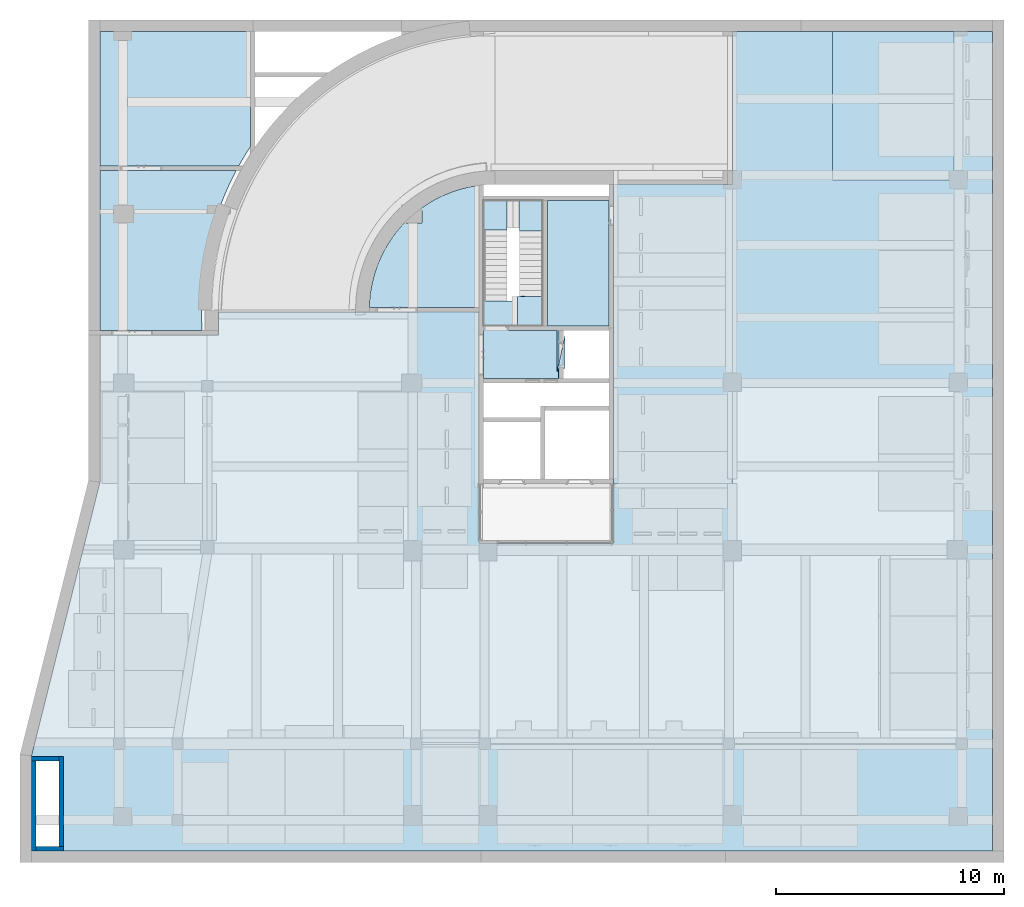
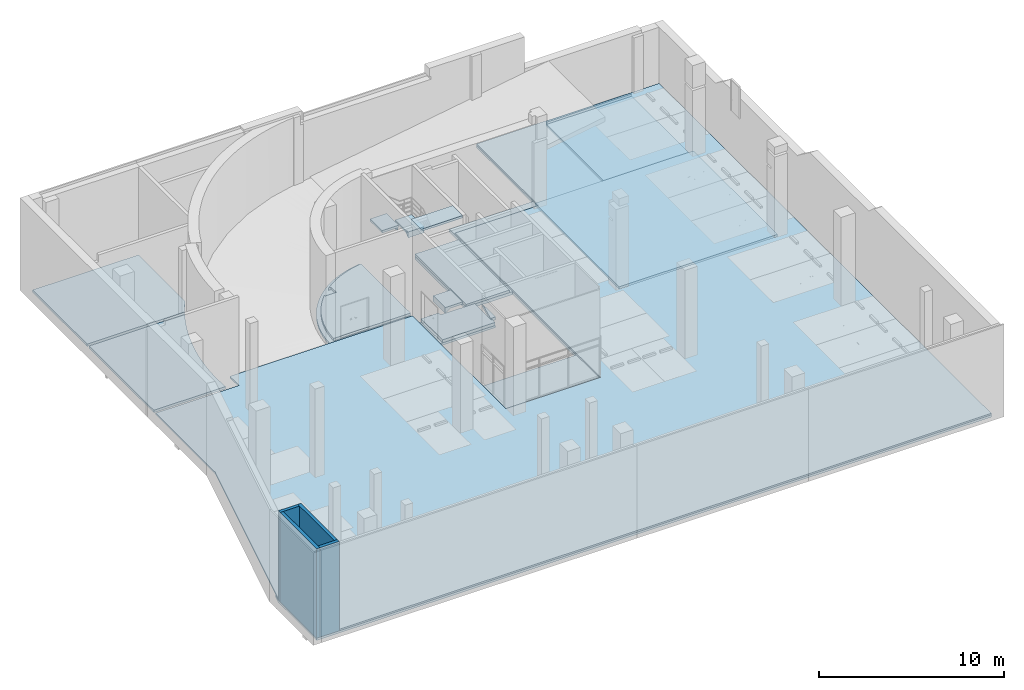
# One storey, part 7 of 29: 15 slabs, 4 walls, 1 element without a shape of its own.
"""IFC2X3 building model written with IfcOpenShell, lengths in millimetres."""

from ifc_helpers import new_model, entity, si_unit, converted_unit, derived_unit, direction, frame, frame_2d, origin, place, context, subcontext, project, spatial, polyline, circle_curve, parameter, trimmed, segment, composite_curve, rectangle, outline, extrude, clip, bounded_halfspace, faceted_brep, material, layer, layer_set, layer_usage, type_object, element, aggregate, save


model = new_model("IFC2X3")

# Units and contexts
model_context = context("Model", 3, precision=0.01, world=origin(), true_north=direction((6.123031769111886e-17, 1.0)))
body_context = subcontext(model_context, "Body", "Model", "MODEL_VIEW")
ifc_project = project(units=[si_unit("LENGTHUNIT", "METRE", prefix="MILLI"), si_unit("AREAUNIT", "SQUARE_METRE"), si_unit("VOLUMEUNIT", "CUBIC_METRE"), converted_unit("PLANEANGLEUNIT", "DEGREE", entity("IfcRatioMeasure", 0.017453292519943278), si_unit("PLANEANGLEUNIT", "RADIAN"), dimensions=[0, 0, 0, 0, 0, 0, 0]), si_unit("MASSUNIT", "GRAM", prefix="KILO"), derived_unit("MASSDENSITYUNIT", [(si_unit("MASSUNIT", "GRAM", prefix="KILO"), 1), (si_unit("LENGTHUNIT", "METRE"), -3)]), derived_unit("MOMENTOFINERTIAUNIT", [(si_unit("LENGTHUNIT", "METRE"), 4)]), si_unit("TIMEUNIT", "SECOND"), si_unit("FREQUENCYUNIT", "HERTZ"), si_unit("THERMODYNAMICTEMPERATUREUNIT", "DEGREE_CELSIUS"), derived_unit("THERMALTRANSMITTANCEUNIT", [(si_unit("MASSUNIT", "GRAM", prefix="KILO"), 1), (si_unit("THERMODYNAMICTEMPERATUREUNIT", "KELVIN"), -1), (si_unit("TIMEUNIT", "SECOND"), -3)]), derived_unit("VOLUMETRICFLOWRATEUNIT", [(si_unit("LENGTHUNIT", "METRE"), 3), (si_unit("TIMEUNIT", "SECOND"), -1)]), derived_unit("MASSFLOWRATEUNIT", [(si_unit("MASSUNIT", "GRAM", prefix="KILO"), 1), (si_unit("TIMEUNIT", "SECOND"), -1)]), derived_unit("ROTATIONALFREQUENCYUNIT", [(si_unit("TIMEUNIT", "SECOND"), -1)]), si_unit("ELECTRICCURRENTUNIT", "AMPERE"), si_unit("ELECTRICVOLTAGEUNIT", "VOLT"), si_unit("POWERUNIT", "WATT"), si_unit("FORCEUNIT", "NEWTON", prefix="KILO"), si_unit("ILLUMINANCEUNIT", "LUX"), si_unit("LUMINOUSFLUXUNIT", "LUMEN"), si_unit("LUMINOUSINTENSITYUNIT", "CANDELA"), derived_unit("USERDEFINED", [(si_unit("MASSUNIT", "GRAM", prefix="KILO"), -1), (si_unit("LENGTHUNIT", "METRE"), -2), (si_unit("TIMEUNIT", "SECOND"), 3), (si_unit("LUMINOUSFLUXUNIT", "LUMEN"), 1)]), derived_unit("SOUNDPOWERUNIT", [(si_unit("MASSUNIT", "GRAM", prefix="KILO"), 1), (si_unit("LENGTHUNIT", "METRE"), 2), (si_unit("TIMEUNIT", "SECOND"), -3)]), derived_unit("SOUNDPRESSUREUNIT", [(si_unit("MASSUNIT", "GRAM", prefix="KILO"), 1), (si_unit("LENGTHUNIT", "METRE"), -1), (si_unit("TIMEUNIT", "SECOND"), -2)]), derived_unit("LINEARVELOCITYUNIT", [(si_unit("LENGTHUNIT", "METRE"), 1), (si_unit("TIMEUNIT", "SECOND"), -1)]), si_unit("PRESSUREUNIT", "PASCAL"), derived_unit("USERDEFINED", [(si_unit("LENGTHUNIT", "METRE"), -2), (si_unit("MASSUNIT", "GRAM", prefix="KILO"), 1), (si_unit("TIMEUNIT", "SECOND"), -2)]), derived_unit("LINEARFORCEUNIT", [(si_unit("MASSUNIT", "GRAM", prefix="KILO"), 1), (si_unit("LENGTHUNIT", "METRE"), 1), (si_unit("TIMEUNIT", "SECOND"), -2), (si_unit("LENGTHUNIT", "METRE"), -1)]), derived_unit("PLANARFORCEUNIT", [(si_unit("MASSUNIT", "GRAM", prefix="KILO"), 1), (si_unit("LENGTHUNIT", "METRE"), 1), (si_unit("TIMEUNIT", "SECOND"), -2), (si_unit("LENGTHUNIT", "METRE"), -2)])], contexts=[model_context])

# Site, building, storey
site_placement = place(None, frame((-14167.972527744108, -657.2125860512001, 0.0)))
site = spatial("IfcSite", under=ifc_project, at=site_placement, Name="Default", CompositionType="ELEMENT")
building_placement = place(site_placement, origin())
building = spatial("IfcBuilding", under=site, at=building_placement, Name="Sample Building", CompositionType="ELEMENT")
storey_placement = place(building_placement, frame((0.0, 0.0, -6100.0)))
storey = spatial("IfcBuildingStorey", under=building, at=storey_placement, Name="지하1층", CompositionType="ELEMENT", Elevation=-6099.999999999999)

# Slabs
ifc_material_1 = material(Name="KBIMS-콘크리트")
ifc_layer_1 = layer(ifc_material_1, 150.0)
ifc_layer_set_1 = layer_set([ifc_layer_1], Name="바닥:SL111-철근콘크리트구조 바닥 150mm_S3")
ifc_layer_usage_1 = layer_usage(ifc_layer_set_1, "AXIS3", "POSITIVE", 0.0)
slab_type_1 = type_object("IfcSlabType", Name="바닥:SL111-철근콘크리트구조 바닥 150mm_S3", PredefinedType="FLOOR", material=ifc_layer_set_1)
slab_1_placement = place(storey_placement, origin())
element("IfcSlab", 1, at=slab_1_placement, inside=storey, type_object=slab_type_1, material=ifc_layer_usage_1, Name="바닥:SL111-철근콘크리트구조 바닥 150mm_S3", ObjectType="바닥:SL111-철근콘크리트구조 바닥 150mm_S3", PredefinedType="FLOOR", context=body_context, shape_type="SweptSolid", body=[
    extrude(outline(polyline([(6942.660881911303, -30869.84918594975), (11105.729194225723, -30869.84918594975), (11105.729194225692, 11230.150814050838), (-24794.27080577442, 11230.150814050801), (-24794.27080577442, 9730.158637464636), (-2094.2712276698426, 9730.15863746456), (-2094.2712276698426, 9880.159510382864), (6429.982681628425, 9880.15951038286), (6429.982681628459, -30741.67963587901), (6942.660881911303, -30869.84918594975)]), holes=[polyline([(7160.02768156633, -29659.84925917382), (9555.728898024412, -29659.849259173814), (9955.728898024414, -29659.849259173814), (10905.729237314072, -29659.849259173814), (10905.729237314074, -30669.84925917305), (9955.728898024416, -30669.84925917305), (9555.728898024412, -30669.84925917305), (7160.02768156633, -30669.849259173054), (7160.02768156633, -29659.84925917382)])]), frame((41337.821677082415, 10562.941502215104, -150.0), z_axis=(0.0, 0.0, 1.0), x_axis=(0.0, -1.0, 0.0)), (0.0, 0.0, 1.0), 150.00000000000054),
])
ifc_layer_2 = layer(ifc_material_1, 300.0)
ifc_layer_set_2 = layer_set([ifc_layer_2], Name="바닥:SL111-철근콘크리트구조 바닥 300mm_RaS1")
ifc_layer_usage_2 = layer_usage(ifc_layer_set_2, "AXIS3", "POSITIVE", 0.0)
slab_type_2 = type_object("IfcSlabType", Name="바닥:SL111-철근콘크리트구조 바닥 300mm_RaS1", PredefinedType="FLOOR", material=ifc_layer_set_2)
slab_2_placement = place(storey_placement, origin())
element("IfcSlab", 2, at=slab_2_placement, inside=storey, type_object=slab_type_2, material=ifc_layer_usage_2, Name="바닥:SL111-철근콘크리트구조 바닥 300mm_RaS1", ObjectType="바닥:SL111-철근콘크리트구조 바닥 300mm_RaS1", PredefinedType="FLOOR", context=body_context, shape_type="SweptSolid", body=[
    extrude(outline(polyline([(-103.84615384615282, -2930.7717560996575), (196.1538461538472, -2930.7717560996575), (196.1538461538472, -2830.771756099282), (46.15384615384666, -2830.771756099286), (46.15384615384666, -80.77206514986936), (46.15384615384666, 319.227934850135), (46.15384615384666, 3269.2279348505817), (46.15384615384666, 3669.2282439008), (-103.84615384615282, 3669.2282439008), (-103.84615384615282, 3269.2279348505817), (-103.84615384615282, 319.227934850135), (-103.84615384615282, -80.77206514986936), (-103.84615384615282, -2830.7370725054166), (-103.84615384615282, -2930.7717560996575)])), frame((45549.57230889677, 32526.440551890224, -196.1538461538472), z_axis=(1.0, 0.0, 0.0), x_axis=(0.0, 0.0, 1.0)), (0.0, 0.0, 1.0), 5318.408005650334),
])
ifc_layer_3 = layer(ifc_material_1, 150.0)
ifc_layer_set_3 = layer_set([ifc_layer_3], Name="바닥:SL111-철근콘크리트구조 바닥 150mm_S1")
ifc_layer_usage_3 = layer_usage(ifc_layer_set_3, "AXIS3", "POSITIVE", 0.0)
slab_type_3 = type_object("IfcSlabType", Name="바닥:SL111-철근콘크리트구조 바닥 150mm_S1", PredefinedType="FLOOR", material=ifc_layer_set_3)
slab_3_placement = place(storey_placement, origin())
element("IfcSlab", 3, at=slab_3_placement, inside=storey, type_object=slab_type_3, material=ifc_layer_usage_3, Name="바닥:SL111-철근콘크리트구조 바닥 150mm_S1", ObjectType="바닥:SL111-철근콘크리트구조 바닥 150mm_S1", PredefinedType="FLOOR", context=body_context, shape_type="SweptSolid", body=[
    extrude(rectangle(XDim=9100.000000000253, YDim=9899.999999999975, at=frame_2d((0.0, -8.640199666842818e-12), x_axis=(1.0, 0.0))), frame((46117.98031454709, 24507.212307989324, 0.0), z_axis=(0.0, 0.0, -1.0), x_axis=(0.0, 1.0, 0.0)), (0.0, 0.0, 1.0), 150.00000000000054),
])
ifc_layer_usage_4 = layer_usage(ifc_layer_set_1, "AXIS3", "POSITIVE", 0.0)
slab_type_4 = type_object("IfcSlabType", Name="바닥:SL111-철근콘크리트구조 바닥 150mm_S3", PredefinedType="FLOOR", material=ifc_layer_set_1)
slab_4_placement = place(storey_placement, origin())
element("IfcSlab", 4, at=slab_4_placement, inside=storey, type_object=slab_type_4, material=ifc_layer_usage_4, Name="바닥:SL111-철근콘크리트구조 바닥 150mm_S3", ObjectType="바닥:SL111-철근콘크리트구조 바닥 150mm_S3", PredefinedType="FLOOR", context=body_context, shape_type="SweptSolid", body=[
    extrude(outline(composite_curve([segment(polyline([(-9433.750646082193, -7035.01813511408), (4566.257177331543, -7035.01813511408)]), True, "CONTINUOUS"), segment(polyline([(4566.257177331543, -7035.01813511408), (4566.257177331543, 3364.9818648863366)]), True, "CONTINUOUS"), segment(polyline([(4566.257177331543, 3364.9818648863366), (6765.395044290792, 3364.9818648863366)]), True, "CONTINUOUS"), segment(trimmed(circle_curve(frame_2d((936.283360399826, 3364.981864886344), x_axis=(1.0, 0.0)), 5829.111683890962), [parameter(0.0)], [parameter(82.96274772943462)], True, "PARAMETER"), True, "CONTINUOUS"), segment(polyline([(1650.4349152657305, 9150.18113370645), (1650.4349152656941, 2764.9818682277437)]), True, "CONTINUOUS"), segment(polyline([(1650.4349152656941, 2764.9818682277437), (-1833.7428226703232, 2764.9818682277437)]), True, "CONTINUOUS"), segment(polyline([(-1833.7428226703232, 2764.9818682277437), (-1833.7428226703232, 464.98197026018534)]), True, "CONTINUOUS"), segment(polyline([(-1833.7428226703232, 464.98197026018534), (1668.1038540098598, 464.98197026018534)]), True, "CONTINUOUS"), segment(polyline([(1668.1038540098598, 464.98197026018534), (1668.1038540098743, -4135.018135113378)]), True, "CONTINUOUS"), segment(polyline([(1668.1038540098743, -4135.018135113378), (-9433.7506460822, -4135.018135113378)]), True, "CONTINUOUS"), segment(polyline([(-9433.7506460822, -4135.018135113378), (-9433.750646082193, -7035.01813511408)]), True, "CONTINUOUS")], self_intersect=False)), frame((31734.22966846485, 19692.230443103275, 0.0), z_axis=(0.0, 0.0, -1.0), x_axis=(-1.0, 0.0, 0.0)), (0.0, 0.0, 1.0), 150.00000000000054),
])
ifc_layer_4 = layer(ifc_material_1, 200.0)
ifc_layer_set_4 = layer_set([ifc_layer_4], Name="바닥:SL111-철근콘크리트구조 바닥 200mm_S4")
ifc_layer_usage_5 = layer_usage(ifc_layer_set_4, "AXIS3", "POSITIVE", 0.0)
slab_type_5 = type_object("IfcSlabType", Name="바닥:SL111-철근콘크리트구조 바닥 200mm_S4", PredefinedType="FLOOR", material=ifc_layer_set_4)
slab_5_placement = place(storey_placement, origin())
element("IfcSlab", 5, at=slab_5_placement, inside=storey, type_object=slab_type_5, material=ifc_layer_usage_5, Name="바닥:SL111-철근콘크리트구조 바닥 200mm_S4", ObjectType="바닥:SL111-철근콘크리트구조 바닥 200mm_S4", PredefinedType="FLOOR", context=body_context, shape_type="SweptSolid", body=[
    extrude(outline(polyline([(-1350.0, -3468.600063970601), (4150.0, -3468.600063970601), (4150.0, -594.2076315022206), (5450.0, -594.2076315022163), (5450.0, 4631.40775944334), (-8250.0, 4631.4077594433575), (-8250.0, -568.6000639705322), (-1350.0, -568.600063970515), (-1350.0, -3468.600063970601)])), frame((36536.572555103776, 23807.21230882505, 0.0), z_axis=(0.0, 0.0, -1.0), x_axis=(0.0, 1.0, 0.0)), (0.0, 0.0, 1.0), 200.0),
])
ifc_material_2 = material(Name="SL671-에폭시페인트 바닥 (내산, 로울러칠, 3회)")
ifc_layer_5 = layer(ifc_material_2, 3.0)
ifc_material_3 = material(Name="SL582-무근콘크리트 바닥 97mm")
ifc_layer_6 = layer(ifc_material_3, 95.00000000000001)
ifc_material_4 = material(Name="SL789-와이어매쉬 #8 150x150")
ifc_layer_7 = layer(ifc_material_4, 1.0)
ifc_material_5 = material(Name="SL555-쇠흙손마감 바닥 (콘크리트면)")
ifc_layer_8 = layer(ifc_material_5, 1.0)
ifc_layer_set_5 = layer_set([ifc_layer_5, ifc_layer_6, ifc_layer_7, ifc_layer_8], Name="바닥:A1-12-09B-쇠흙손마감, 와이어매쉬(#8 150x150), 무근콘크리트, 에폭시페인트 (100mm)")
ifc_layer_usage_6 = layer_usage(ifc_layer_set_5, "AXIS3", "POSITIVE", 0.0)
slab_type_6 = type_object("IfcSlabType", Name="바닥:A1-12-09B-쇠흙손마감, 와이어매쉬(#8 150x150), 무근콘크리트, 에폭시페인트 (100mm)", PredefinedType="FLOOR", material=ifc_layer_set_5)
slab_6_placement = place(storey_placement, origin())
element("IfcSlab", 6, at=slab_6_placement, inside=storey, type_object=slab_type_6, material=ifc_layer_usage_6, Name="바닥:A1-12-09B-쇠흙손마감, 와이어매쉬(#8 150x150), 무근콘크리트, 에폭시페인트 (100mm)", ObjectType="바닥:A1-12-09B-쇠흙손마감, 와이어매쉬(#8 150x150), 무근콘크리트, 에폭시페인트 (100mm)", PredefinedType="FLOOR", context=body_context, shape_type="SweptSolid", body=[
    extrude(outline(polyline([(-24699.202462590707, -18270.29812625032), (15990.797610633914, -18270.29812625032), (15990.797610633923, -14124.596613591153), (17405.139237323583, -14124.596613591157), (14400.79753740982, -2107.2298139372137), (14400.79753740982, 4329.701873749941), (9200.806230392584, 4329.701873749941), (9200.806230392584, 5329.701873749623), (-2197.355785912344, 5329.701873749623), (-2197.3557859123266, -4770.297848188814), (-8099.202462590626, -4770.297848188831), (-8099.202462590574, 10929.701873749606), (-13299.210286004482, 10929.701873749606), (-13299.210286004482, 17629.701873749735), (-24699.202462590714, 17629.701873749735), (-24699.202462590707, -18270.29812625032)])), frame((27868.7700285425, 17727.510434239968, 100.0), z_axis=(0.0, 0.0, -1.0), x_axis=(-1.0, 0.0, 0.0)), (0.0, 0.0, 1.0), 100.0),
])
ifc_material_6 = material(Name="SL322-대리석물갈기 바닥 (바탕60mm, 마감20mm)")
ifc_layer_9 = layer(ifc_material_6, 80.0)
ifc_material_7 = material(Name="SL582-무근콘크리트 바닥 100mm")
ifc_layer_10 = layer(ifc_material_7, 99.0)
ifc_layer_11 = layer(ifc_material_4, 1.0)
ifc_material_8 = material(Name="SL553-보호모르타르 바닥 20mm")
ifc_layer_12 = layer(ifc_material_8, 18.0)
ifc_material_9 = material(Name="SL541-침투성방수 바닥")
ifc_layer_13 = layer(ifc_material_9, 1.0)
ifc_layer_14 = layer(ifc_material_5, 1.0)
ifc_layer_set_6 = layer_set([ifc_layer_9, ifc_layer_10, ifc_layer_11, ifc_layer_12, ifc_layer_13, ifc_layer_14], Name="바닥:A1-15-09B-쇠흙손마감, 침투성방수(2차), 시멘트모르타르(보호용), 와이어매쉬(#8 150x150), 무근콘크리트, 대리석(물갈기) (200mm)")
ifc_layer_usage_7 = layer_usage(ifc_layer_set_6, "AXIS3", "POSITIVE", 0.0)
slab_type_7 = type_object("IfcSlabType", Name="바닥:A1-15-09B-쇠흙손마감, 침투성방수(2차), 시멘트모르타르(보호용), 와이어매쉬(#8 150x150), 무근콘크리트, 대리석(물갈기) (200mm)", PredefinedType="FLOOR", material=ifc_layer_set_6)
slab_7_placement = place(storey_placement, origin())
element("IfcSlab", 7, at=slab_7_placement, inside=storey, type_object=slab_type_7, material=ifc_layer_usage_7, Name="바닥:A1-15-09B-쇠흙손마감, 침투성방수(2차), 시멘트모르타르(보호용), 와이어매쉬(#8 150x150), 무근콘크리트, 대리석(물갈기) (200mm)", ObjectType="바닥:A1-15-09B-쇠흙손마감, 침투성방수(2차), 시멘트모르타르(보호용), 와이어매쉬(#8 150x150), 무근콘크리트, 대리석(물갈기) (200mm)", PredefinedType="FLOOR", context=body_context, shape_type="SweptSolid", body=[
    extrude(outline(polyline([(-1335.890706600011, -1864.4273961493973), (764.1092967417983, -1864.4273961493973), (764.1092967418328, -1862.5807725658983), (964.1092967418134, -1862.5807725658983), (964.1092967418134, -762.5807725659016), (764.1092967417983, -762.5807725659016), (764.1092967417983, 1365.312452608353), (-1047.4657365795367, 1365.312452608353), (526.3727791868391, 1698.685052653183), (-895.8907049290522, 1698.685052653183), (-895.8907049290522, 1425.5914360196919), (-1335.8907066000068, 1425.5914360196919), (-1335.890706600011, -1864.4273961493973)])), frame((32130.553210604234, 21493.10301458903, 200.0), z_axis=(0.0, 0.0, -1.0), x_axis=(0.0, 1.0, 0.0)), (0.0, 0.0, 1.0), 200.0),
])
ifc_material_10 = material(Name="SL661-우레탄페인트 바닥")
ifc_layer_15 = layer(ifc_material_10, 1.0)
ifc_material_11 = material(Name="SL552-바탕고르기(시멘트모르타르) 바닥 30mm")
ifc_layer_16 = layer(ifc_material_11, 29.0)
ifc_layer_17 = layer(ifc_material_7, 99.0)
ifc_layer_18 = layer(ifc_material_4, 1.0)
ifc_material_12 = material(Name="SL531-시멘트액체방수 바닥 (2차 30mm)")
ifc_layer_19 = layer(ifc_material_12, 30.0)
ifc_layer_set_7 = layer_set([ifc_layer_15, ifc_layer_16, ifc_layer_17, ifc_layer_18, ifc_layer_19], Name="바닥:A1-12-13B-시멘트 액체방수(2차), 와이어매쉬(#8 150x150), 무근콘크리트, 시멘트모르타르(고름용), 우레탄페인트 (160mm)")
ifc_layer_usage_8 = layer_usage(ifc_layer_set_7, "AXIS3", "POSITIVE", 0.0)
slab_type_8 = type_object("IfcSlabType", Name="바닥:A1-12-13B-시멘트 액체방수(2차), 와이어매쉬(#8 150x150), 무근콘크리트, 시멘트모르타르(고름용), 우레탄페인트 (160mm)", PredefinedType="FLOOR", material=ifc_layer_set_7)
slab_8_placement = place(storey_placement, origin())
element("IfcSlab", 8, at=slab_8_placement, inside=storey, type_object=slab_type_8, material=ifc_layer_usage_8, Name="바닥:A1-12-13B-시멘트 액체방수(2차), 와이어매쉬(#8 150x150), 무근콘크리트, 시멘트모르타르(고름용), 우레탄페인트 (160mm)", ObjectType="바닥:A1-12-13B-시멘트 액체방수(2차), 와이어매쉬(#8 150x150), 무근콘크리트, 시멘트모르타르(고름용), 우레탄페인트 (160mm)", PredefinedType="FLOOR", context=body_context, shape_type="SweptSolid", body=[
    extrude(outline(composite_curve([segment(polyline([(-2351.731369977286, 3133.677072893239), (-2351.731369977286, -2221.3583295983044)]), True, "CONTINUOUS"), segment(trimmed(circle_curve(frame_2d((-3053.5780466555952, 3233.677072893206), x_axis=(0.6090869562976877, -0.7931034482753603)), 5500.00000000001), [parameter(329.807904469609)], [parameter(0.0)], True, "PARAMETER"), True, "CONTINUOUS"), segment(polyline([(296.40021298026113, -1128.3918926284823), (146.4219167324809, -1128.3918926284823)]), True, "CONTINUOUS"), segment(polyline([(146.4219167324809, -1128.3918926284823), (146.4219167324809, -566.3229271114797)]), True, "CONTINUOUS"), segment(polyline([(146.4219167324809, -566.3229271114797), (834.3529531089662, -566.3229271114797)]), True, "CONTINUOUS"), segment(polyline([(834.3529531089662, -566.3229271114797), (834.3529531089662, -656.5661767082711)]), True, "CONTINUOUS"), segment(trimmed(circle_curve(frame_2d((-3053.5780466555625, 3233.6770728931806), x_axis=(0.9998346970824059, -0.01818181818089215)), 5499.999999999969), [parameter(316.02476629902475)], [parameter(0.0)], True, "PARAMETER"), True, "CONTINUOUS"), segment(polyline([(2445.5127872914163, 3133.677072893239), (-2351.731369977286, 3133.677072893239)]), True, "CONTINUOUS")], self_intersect=False)), frame((27714.39444447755, 26390.88938088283, 160.0), z_axis=(0.0, 0.0, 1.0), x_axis=(-1.0, 0.0, 0.0)), (0.0, 0.0, -1.0), 160.00000000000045),
])
ifc_layer_usage_9 = layer_usage(ifc_layer_set_7, "AXIS3", "POSITIVE", 0.0)
slab_type_9 = type_object("IfcSlabType", Name="바닥:A1-12-13B-시멘트 액체방수(2차), 와이어매쉬(#8 150x150), 무근콘크리트, 시멘트모르타르(고름용), 우레탄페인트 (160mm)", PredefinedType="FLOOR", material=ifc_layer_set_7)
slab_9_placement = place(storey_placement, origin())
element("IfcSlab", 9, at=slab_9_placement, inside=storey, type_object=slab_type_9, material=ifc_layer_usage_9, Name="바닥:A1-12-13B-시멘트 액체방수(2차), 와이어매쉬(#8 150x150), 무근콘크리트, 시멘트모르타르(고름용), 우레탄페인트 (160mm)", ObjectType="바닥:A1-12-13B-시멘트 액체방수(2차), 와이어매쉬(#8 150x150), 무근콘크리트, 시멘트모르타르(고름용), 우레탄페인트 (160mm)", PredefinedType="FLOOR", context=body_context, shape_type="SweptSolid", body=[
    extrude(rectangle(XDim=5499.999996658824, YDim=2700.0000000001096, at=frame_2d((0.0, -2.1600499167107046e-12), x_axis=(1.0, 0.0))), frame((34417.97249113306, 25207.21230966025, 160.0), z_axis=(0.0, 0.0, -1.0), x_axis=(0.0, 1.0, 0.0)), (0.0, 0.0, 1.0), 160.00000000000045),
])
ifc_layer_20 = layer(ifc_material_1, 150.0)
ifc_layer_set_8 = layer_set([ifc_layer_20], Name="바닥:SL111-철근콘크리트구조 바닥 150mm_S2")
ifc_layer_usage_10 = layer_usage(ifc_layer_set_8, "AXIS3", "POSITIVE", 0.0)
slab_type_10 = type_object("IfcSlabType", Name="바닥:SL111-철근콘크리트구조 바닥 150mm_S2", PredefinedType="FLOOR", material=ifc_layer_set_8)
slab_10_placement = place(storey_placement, origin())
element("IfcSlab", 10, at=slab_10_placement, inside=storey, type_object=slab_type_10, material=ifc_layer_usage_10, Name="바닥:SL111-철근콘크리트구조 바닥 150mm_S2", ObjectType="바닥:SL111-철근콘크리트구조 바닥 150mm_S2", PredefinedType="FLOOR", context=body_context, shape_type="SweptSolid", body=[
    extrude(rectangle(XDim=6300.000000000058, YDim=9900.00000000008, at=frame_2d((2.2737367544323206e-12, 4.092726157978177e-12), x_axis=(1.0, 0.0))), frame((46117.980314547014, 32207.212307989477, 0.0), z_axis=(0.0, 0.0, -1.0), x_axis=(0.0, 1.0, 0.0)), (0.0, 0.0, 1.0), 149.99999999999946),
])
ifc_layer_usage_11 = layer_usage(ifc_layer_set_7, "AXIS3", "POSITIVE", 0.0)
slab_type_11 = type_object("IfcSlabType", Name="바닥:A1-12-13B-시멘트 액체방수(2차), 와이어매쉬(#8 150x150), 무근콘크리트, 시멘트모르타르(고름용), 우레탄페인트 (160mm)", PredefinedType="FLOOR", material=ifc_layer_set_7)
slab_11_placement = place(storey_placement, origin())
element("IfcSlab", 11, at=slab_11_placement, inside=storey, type_object=slab_type_11, material=ifc_layer_usage_11, Name="바닥:A1-12-13B-시멘트 액체방수(2차), 와이어매쉬(#8 150x150), 무근콘크리트, 시멘트모르타르(고름용), 우레탄페인트 (160mm)", ObjectType="바닥:A1-12-13B-시멘트 액체방수(2차), 와이어매쉬(#8 150x150), 무근콘크리트, 시멘트모르타르(고름용), 우레탄페인트 (160mm)", PredefinedType="FLOOR", context=body_context, shape_type="SweptSolid", body=[
    extrude(outline(composite_curve([segment(polyline([(-3367.832169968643, -3855.7078202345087), (2532.167830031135, -3855.7078202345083)]), True, "CONTINUOUS"), segment(polyline([(2532.167830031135, -3855.7078202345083), (2532.1678300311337, 2222.831280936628)]), True, "CONTINUOUS"), segment(trimmed(circle_curve(frame_2d((8832.167830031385, 13594.286772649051), x_axis=(0.0, 1.0)), 12999.99999999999), [parameter(146.57576736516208)], [parameter(151.01272346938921)], True, "PARAMETER"), False, "CONTINUOUS"), segment(polyline([(1671.3286798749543, 2744.2921797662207), (-3367.8321699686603, 2744.2921797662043)]), True, "CONTINUOUS"), segment(polyline([(-3367.8321699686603, 2744.2921797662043), (-3367.832169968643, -3855.7078202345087)]), True, "CONTINUOUS")], self_intersect=False)), frame((17323.68031136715, 31989.380138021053, 0.0), z_axis=(0.0, 0.0, 1.0), x_axis=(0.0, -1.0, 0.0)), (0.0, 0.0, 1.0), 160.00000000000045),
    extrude(outline(composite_curve([segment(polyline([(1868.3863899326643, 3500.0), (-2612.799468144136, 3500.0)]), True, "CONTINUOUS"), segment(polyline([(-2612.799468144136, 3500.0), (-2612.799468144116, -3500.0)]), True, "CONTINUOUS"), segment(polyline([(-2612.799468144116, -3500.0), (3357.212546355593, -3500.0)]), True, "CONTINUOUS"), segment(trimmed(circle_curve(frame_2d((14837.195124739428, 2600.0), x_axis=(1.0, 0.0)), 12999.99999999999), [parameter(176.03019364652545)], [parameter(207.98437568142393)], True, "PARAMETER"), False, "CONTINUOUS")], self_intersect=False)), frame((16080.77195927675, 25757.212307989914, 0.0), z_axis=(0.0, 0.0, -1.0), x_axis=(1.0, 0.0, 0.0)), (0.0, 0.0, -1.0), 160.00000000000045),
])

# Stair, slabs
stair_placement = place(storey_placement, origin())
stair = element("IfcStair", 12, at=stair_placement, inside=storey, Name="현장타설 계단:계단", ObjectType="현장타설 계단:ST111-철근콘크리트구조 계단 (U형)", ShapeType="NOTDEFINED")
slab_type_12 = type_object("IfcSlabType", Name="일체형 계단참:일체형 계단참 150mm_철근콘크리트", PredefinedType="LANDING")
slab_12_placement = place(stair_placement, frame((31767.972491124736, 22457.21231133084, 0.0)))
slab_12 = element("IfcSlab", 13, at=slab_12_placement, type_object=slab_type_12, material=ifc_material_1, Name="현장타설 계단:계단:5961117 Landing 1", ObjectType="일체형 계단참:일체형 계단참 150mm_철근콘크리트", PredefinedType="LANDING", context=body_context, shape_type="Brep", body=[
    faceted_brep([(0.0, 1299.9653164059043, 406.6666666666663), (0.0, 0.0, 406.6666666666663), (311.689016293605, 0.0, 406.6666666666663), (1088.2000453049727, 0.0, 406.6666666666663), (1088.2000453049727, 1299.9999672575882, 406.6666666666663), (88.2000453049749, 1299.9999672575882, 406.6666666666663), (0.0, 1299.9653164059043, 203.33333333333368), (0.0, 1299.9653164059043, 12.909871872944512), (0.0, 0.0, 12.909871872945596), (0.0, 0.0, 203.33333333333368), (311.6890162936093, 0.0, 256.6666666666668), (1088.2000453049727, 0.0, 256.6666666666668), (1088.2000453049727, 1299.9999672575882, 256.6666666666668), (311.68901629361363, 1299.9999672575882, 256.6666666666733), (88.2000453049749, 1299.9999672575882, 81.88683038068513), (88.2000453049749, 1299.9999672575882, 256.6666666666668), (311.6890162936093, 1300.0877686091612, 256.6666666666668)], [[[0, 1, 2, 3, 4, 5]], [[1, 0, 6, 7, 8, 9]], [[1, 9, 8, 10, 11, 3, 2]], [[4, 3, 11, 12]], [[5, 4, 12, 13, 14, 15]], [[0, 5, 15, 14, 7, 6]], [[10, 13, 12, 11]], [[16, 10, 8, 7, 14]]]),
])
slab_type_13 = type_object("IfcSlabType", Name="일체형 계단참:일체형 계단참 150mm_철근콘크리트", PredefinedType="LANDING")
slab_13_placement = place(stair_placement, frame((31816.149175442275, 26617.212278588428, 0.0)))
slab_13 = element("IfcSlab", 14, at=slab_13_placement, type_object=slab_type_13, material=ifc_material_1, Name="현장타설 계단:계단:5961117 Landing 2", ObjectType="일체형 계단참:일체형 계단참 150mm_철근콘크리트", PredefinedType="LANDING", context=body_context, shape_type="Brep", body=[
    faceted_brep([(40.02336098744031, 0.0, 2846.666666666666), (1040.0233609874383, 0.0, 2846.666666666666), (1040.0233609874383, 311.6890162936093, 2846.666666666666), (1040.0233609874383, 1340.000029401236, 2846.666666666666), (0.0, 1340.000029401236, 2846.666666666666), (0.0, 140.0000294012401, 2846.666666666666), (40.02336098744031, 140.0000294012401, 2846.666666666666), (1040.0233609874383, 0.0, 2643.333333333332), (1040.0233609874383, 0.0, 2452.9098718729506), (1040.0233609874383, 311.6890162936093, 2696.666666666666), (1040.0233609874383, 1340.000029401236, 2696.666666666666), (0.0, 140.0000294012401, 2696.666666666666), (40.02336098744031, 140.0000294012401, 2696.666666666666), (40.02336098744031, 311.6890162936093, 2696.666666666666), (0.0, 1340.000029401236, 2696.666666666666), (40.02336098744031, 0.0, 2452.909871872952), (40.02336098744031, 0.0, 2643.333333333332)], [[[0, 1, 2, 3, 4, 5, 6]], [[1, 7, 8, 9, 10, 3, 2]], [[6, 5, 11, 12]], [[9, 13, 12, 11, 14, 10]], [[15, 13, 9, 8]], [[1, 0, 16, 15, 8, 7]], [[4, 3, 10, 14]], [[5, 4, 14, 11]], [[0, 6, 12, 13, 15, 16]]]),
])
slab_type_14 = type_object("IfcSlabType", Name="일체형 계단참:일체형 계단참 150mm_철근콘크리트", PredefinedType="LANDING")
slab_14_placement = place(stair_placement, frame((30256.12581445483, 26667.17762773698, 0.0)))
slab_14 = element("IfcSlab", 15, at=slab_14_placement, type_object=slab_type_14, material=ifc_material_1, Name="현장타설 계단:계단:5961117 Landing 3", ObjectType="일체형 계단참:일체형 계단참 150mm_철근콘크리트", PredefinedType="LANDING", context=body_context, shape_type="Brep", body=[
    faceted_brep([(1040.023360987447, 90.03468025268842, 3456.666666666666), (1040.023360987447, 1290.0346802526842, 3456.666666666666), (728.3343446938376, 1290.0346802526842, 3456.666666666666), (0.0, 1290.0346802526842, 3456.666666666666), (0.0, 0.0, 3456.666666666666), (1040.0233609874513, 0.0, 3456.666666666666), (0.0, 1290.0346802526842, 3306.666666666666), (0.0, 0.0, 3306.666666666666), (1040.0233609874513, 0.0, 3306.666666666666), (1040.023360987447, 90.03468025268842, 3306.666666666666), (728.3343446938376, 1290.0346802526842, 3306.666666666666), (728.3343446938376, 90.03468025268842, 3306.666666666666), (1040.023360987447, 1290.0346802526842, 3062.9098718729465), (1040.023360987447, 90.03468025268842, 3062.9098718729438), (1040.023360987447, 90.03468025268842, 3253.333333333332), (1040.023360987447, 1290.0346802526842, 3253.333333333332)], [[[0, 1, 2, 3, 4, 5]], [[4, 3, 6, 7]], [[0, 5, 8, 9]], [[10, 11, 9, 8, 7, 6]], [[11, 10, 12, 13]], [[9, 11, 13, 14]], [[1, 0, 9, 14, 13, 12, 15]], [[1, 15, 12, 10, 6, 3, 2]], [[5, 4, 7, 8]]]),
])
slab_type_15 = type_object("IfcSlabType", Name="일체형 계단참:일체형 계단참 150mm_철근콘크리트", PredefinedType="LANDING")
slab_15_placement = place(stair_placement, frame((30256.12581445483, 22457.21231133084, 0.0)))
slab_15 = element("IfcSlab", 16, at=slab_15_placement, type_object=slab_type_15, material=ifc_material_1, Name="현장타설 계단:계단:5961117 Landing 4", ObjectType="일체형 계단참:일체형 계단참 150mm_철근콘크리트", PredefinedType="LANDING", context=body_context, shape_type="Brep", body=[
    faceted_brep([(1040.023360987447, 1089.9653164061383, 6100.0), (0.0, 1089.9653164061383, 6100.0), (0.0, 778.2763001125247, 6100.0), (0.0, 0.0, 6100.0), (2601.8466766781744, 0.0, 6100.0), (2601.8466766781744, 1089.9653164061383, 6100.0), (2601.8466766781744, 0.0, 5950.0), (2601.8466766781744, 1089.9653164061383, 5950.0), (0.0, 1089.9653164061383, 5896.666666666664), (0.0, 1089.9653164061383, 5706.243205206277), (0.0, 778.2763001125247, 5950.0), (0.0, 0.0, 5950.0), (1040.023360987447, 778.2763001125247, 5950.0), (1040.023360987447, 1089.9653164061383, 5950.0), (1040.023360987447, 1089.9653164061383, 5896.666666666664), (1040.023360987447, 1089.9653164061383, 5706.243205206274)], [[[0, 1, 2, 3, 4, 5]], [[5, 4, 6, 7]], [[1, 8, 9, 10, 11, 3, 2]], [[4, 3, 11, 6]], [[10, 12, 13, 7, 6, 11]], [[1, 0, 13, 14, 15, 9, 8]], [[0, 5, 7, 13]], [[12, 10, 9, 15]], [[13, 12, 15, 14]]]),
])
aggregate(stair, [slab_12, slab_13, slab_14, slab_15])

# Walls
ifc_layer_21 = layer(ifc_material_1, 200.0)
ifc_layer_set_9 = layer_set([ifc_layer_21], Name="기본 벽:WA111-철근콘크리트구조 벽 200mm_CW1")
ifc_layer_usage_12 = layer_usage(ifc_layer_set_9, "AXIS2", "NEGATIVE", 100.0)
wall_type = type_object("IfcWallType", Name="기본 벽:WA111-철근콘크리트구조 벽 200mm_CW1", PredefinedType="STANDARD", material=ifc_layer_set_9)
wall_1_placement = place(storey_placement, frame((10467.972417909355, 3502.9138206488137, 0.0)))
element("IfcWallStandardCase", 17, at=wall_1_placement, inside=storey, type_object=wall_type, material=ifc_layer_usage_12, Name="기본 벽:WA111-철근콘크리트구조 벽 200mm_CW1", ObjectType="기본 벽:WA111-철근콘크리트구조 벽 200mm_CW1", context=body_context, shape_type="Clipping", body=[
    clip(extrude(rectangle(XDim=1209.9999999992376, YDim=200.0, at=frame_2d((604.9999999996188, 0.0), x_axis=(-1.0, 0.0))), origin(), (0.0, 0.0, 1.0), 5900.0), bounded_halfspace(frame((0.0, -100.0, 5900.0), z_axis=(0.0, 0.0, -1.0), x_axis=(0.0, -1.0, 0.0)), True, frame((0.0, -100.0, 5900.0), z_axis=(0.0, 0.0, -1.0), x_axis=(0.0, -1.0, 0.0)), polyline([(0.0, 0.0), (-60960.0, 0.0), (-60960.0, -368808.0), (0.0, -368808.0), (0.0, -60960.0), (0.0, 0.0)]))),
])
ifc_layer_usage_13 = layer_usage(ifc_layer_set_9, "AXIS2", "NEGATIVE", 100.0)
wall_2_placement = place(storey_placement, frame((10567.972417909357, -542.7877350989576, 0.0), z_axis=(0.0, 0.0, 1.0), x_axis=(0.0, 1.0, 0.0)))
element("IfcWallStandardCase", 18, at=wall_2_placement, inside=storey, type_object=wall_type, material=ifc_layer_usage_13, Name="기본 벽:WA111-철근콘크리트구조 벽 200mm_CW1", ObjectType="기본 벽:WA111-철근콘크리트구조 벽 200mm_CW1", context=body_context, shape_type="Clipping", body=[
    clip(extrude(rectangle(XDim=3945.7015557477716, YDim=200.0, at=frame_2d((1972.8507778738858, 1.0871303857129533e-12), x_axis=(-1.0, 0.0))), origin(), (0.0, 0.0, 1.0), 5900.0), bounded_halfspace(frame((0.0, -100.0, 5900.0), z_axis=(0.0, 0.0, -1.0), x_axis=(-1.0, 0.0, 0.0)), True, frame((0.0, -100.0, 5900.0), z_axis=(0.0, 0.0, -1.0), x_axis=(-1.0, 0.0, 0.0)), polyline([(0.0, 0.0), (0.0, 60960.0), (-1202649.834191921, 60960.0), (-1202649.834191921, 0.0), (-60960.0, 0.0), (0.0, 0.0)]))),
])
ifc_layer_usage_14 = layer_usage(ifc_layer_set_9, "AXIS2", "NEGATIVE", 100.0)
wall_3_placement = place(storey_placement, frame((11877.972417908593, -442.78773509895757, 0.0), z_axis=(0.0, 0.0, 1.0), x_axis=(-1.0, 0.0, 0.0)))
element("IfcWallStandardCase", 19, at=wall_3_placement, inside=storey, type_object=wall_type, material=ifc_layer_usage_14, Name="기본 벽:WA111-철근콘크리트구조 벽 200mm_CW1", ObjectType="기본 벽:WA111-철근콘크리트구조 벽 200mm_CW1", context=body_context, shape_type="Clipping", body=[
    clip(extrude(rectangle(XDim=1209.9999999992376, YDim=200.0, at=frame_2d((604.9999999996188, 0.0), x_axis=(-1.0, 0.0))), origin(), (0.0, 0.0, 1.0), 5900.0), bounded_halfspace(frame((0.0, -100.0, 5900.0), z_axis=(0.0, 0.0, -1.0), x_axis=(0.0, 1.0, 0.0)), True, frame((0.0, -100.0, 5900.0), z_axis=(0.0, 0.0, -1.0), x_axis=(0.0, 1.0, 0.0)), polyline([(0.0, 0.0), (60960.0, 0.0), (60960.0, 368808.0), (0.0, 368808.0), (0.0, 0.0)]))),
])
ifc_layer_usage_15 = layer_usage(ifc_layer_set_9, "AXIS2", "NEGATIVE", 100.0)
wall_4_placement = place(storey_placement, frame((11777.972417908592, 3602.9138206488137, 0.0), z_axis=(0.0, 0.0, 1.0), x_axis=(0.0, -1.0, 0.0)))
element("IfcWallStandardCase", 20, at=wall_4_placement, inside=storey, type_object=wall_type, material=ifc_layer_usage_15, Name="기본 벽:WA111-철근콘크리트구조 벽 200mm_CW1", ObjectType="기본 벽:WA111-철근콘크리트구조 벽 200mm_CW1", context=body_context, shape_type="Clipping", body=[
    clip(extrude(rectangle(XDim=3945.7015557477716, YDim=200.0, at=frame_2d((1972.8507778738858, 1.0871303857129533e-12), x_axis=(-1.0, 0.0))), origin(), (0.0, 0.0, 1.0), 5900.0), bounded_halfspace(frame((0.0, -100.0, 5900.0), z_axis=(0.0, 0.0, -1.0), x_axis=(1.0, 0.0, 0.0)), True, frame((0.0, -100.0, 5900.0), z_axis=(0.0, 0.0, -1.0), x_axis=(1.0, 0.0, 0.0)), polyline([(0.0, 0.0), (0.0, -60960.0), (1202649.834191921, -60960.0), (1202649.834191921, 0.0), (60960.0, 0.0), (0.0, 0.0)]))),
])

save(model, "model.ifc")
